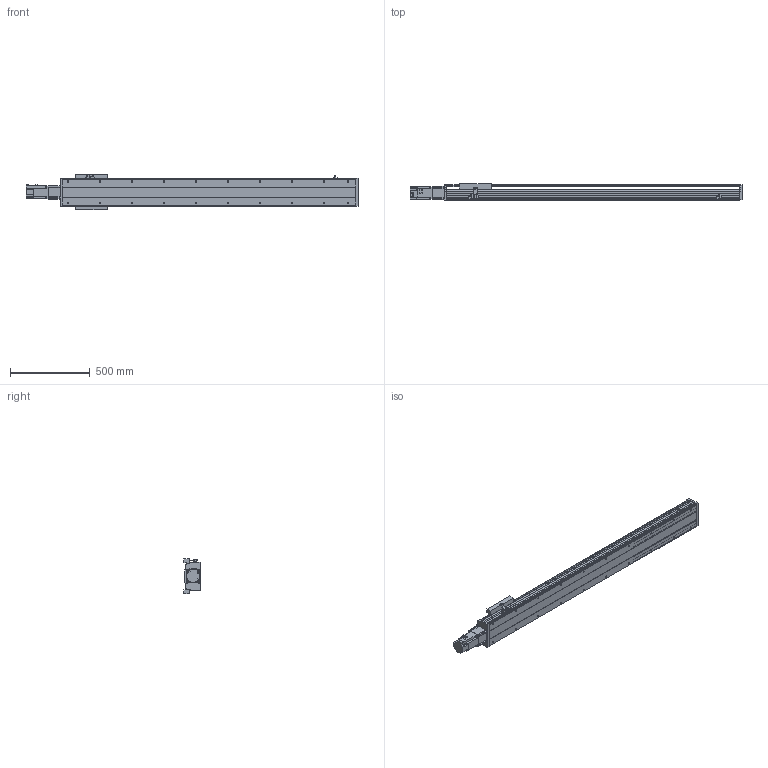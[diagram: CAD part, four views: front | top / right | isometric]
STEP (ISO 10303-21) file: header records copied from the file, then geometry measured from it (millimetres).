
FILE_DESCRIPTION( ( 'STEP AP214' ), '1' );
FILE_NAME( 'x:/temp/worker_27/temp/exporttempdir_6708_417_6V9eI/format_0/PSS200-L10-S1500-BC-T75-C1-N(0).stp', '2022-06-06T02:37:40', ( 'License CC BY-ND 4.0' ), ( 'CADENAS' ), ' ', 'PARTsolutions', ' ' );
FILE_SCHEMA( ( 'AUTOMOTIVE_DESIGN { 1 0 10303 214 1 1 1 1 }' ) );
Length unit declared in the file: millimetre
Products named in the file (8): PSS200-L10-S1500-BC-T75-C1-N(0); _PSS200-S1500-BC-C1-N_body; _PSS200-N_Q; _PSS200-BC-C1-N_sl; _PSS200-N_sensor; _PSS200BC-N_h; _T75-p1; _PSS200-S1500-BC-N_S
Assembly tree (9 placements, depth 2):
  PSS200-L10-S1500-BC-T75-C1-N(0)
    _PSS200-S1500-BC-C1-N_body
    _PSS200-N_Q
    _PSS200-BC-C1-N_sl
    _PSS200-N_sensor  x3
    _PSS200BC-N_h
    _T75-p1
    _PSS200-S1500-BC-N_S
Bounding box: 2076.3 x 101.5 x 223.86 mm (x, y, z)
Volume: 10826899.6 mm3; surface area: 2888395.8 mm2
Topology: 9 solids, 9 shells, 593 faces, 1591 edges, 1056 vertices
Faces by surface type: plane 439, cylinder 126, cone 28
Full cylindrical faces by diameter (mm): 4 x2, 4.5 x4, 6 x11, 6.647 x24, 8 x8, 10 x6, 25 x1, 67 x1, 70 x1
Entity records: 20791 total; most frequent: CARTESIAN_POINT 2888, DIRECTION 2721, ORIENTED_EDGE 2678, EDGE_CURVE 1339, LINE 1051, VECTOR 1051, VERTEX_POINT 938, AXIS2_PLACEMENT_3D 835
